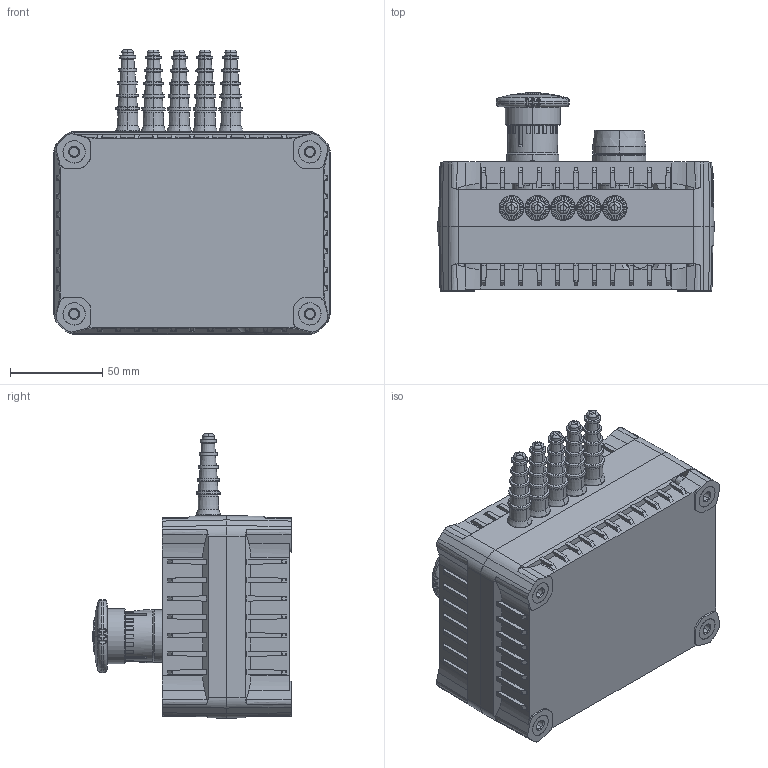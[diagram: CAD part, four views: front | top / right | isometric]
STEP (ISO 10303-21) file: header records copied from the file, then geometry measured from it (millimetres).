
FILE_DESCRIPTION (( 'STEP AP203' ), '1' );
FILE_NAME ('S-1304.STEP', '2018-05-28T11:48:11', ( '' ), ( '' ), 'SwSTEP 2.0', 'SolidWorks 2018', '' );
FILE_SCHEMA (( 'CONFIG_CONTROL_DESIGN' ));
Products named in the file (1): S-1304
Bounding box: 150 x 107.7 x 154.42 mm (x, y, z)
Volume: 654283.7 mm3; surface area: 180643.8 mm2
Topology: 12 solids, 22 shells, 2918 faces, 10297 edges, 7441 vertices
Faces by surface type: plane 1193, cone 598, cylinder 570, bspline 460, torus 62, sphere 35
Entity records: 167408 total; most frequent: CARTESIAN_POINT 83850, ORIENTED_EDGE 20578, DIRECTION 13877, EDGE_CURVE 10289, VERTEX_POINT 7441, VECTOR 5649, LINE 5649, AXIS2_PLACEMENT_3D 4114
